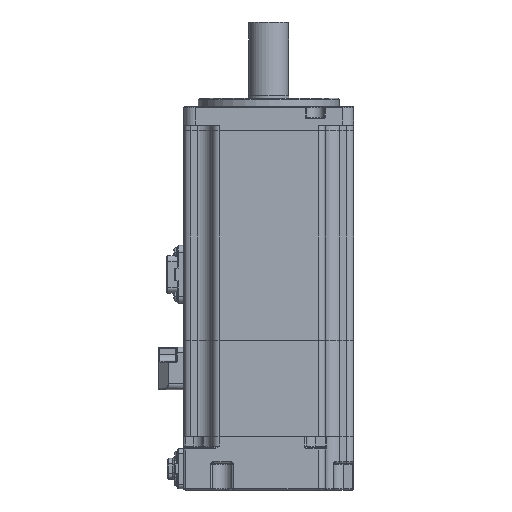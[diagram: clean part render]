
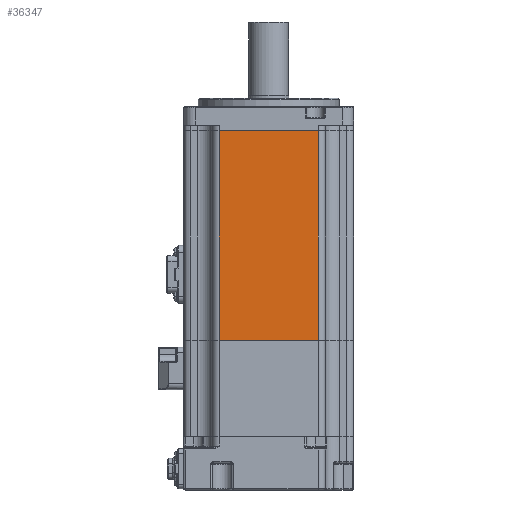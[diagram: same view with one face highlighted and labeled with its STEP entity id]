
A CAD part, left-side view. The second image highlights one B-rep face of the part: STEP entity #36347.
In plain terms, the highlighted planar face has unit normal (-1, 0, 0) as drawn and (1, 0, 0) by its records, which use the part's own axes.
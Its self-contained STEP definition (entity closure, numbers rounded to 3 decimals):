
#8560 = DIRECTION ( 'NONE',  ( 0., 1., 0. ) ) ;
#8993 = CARTESIAN_POINT ( 'NONE',  ( 30., -17.55, 0. ) ) ;
#20989 = VECTOR ( 'NONE', #160707, 1000. ) ;
#28705 = FACE_OUTER_BOUND ( 'NONE', #86096, .T. ) ;
#29583 = CARTESIAN_POINT ( 'NONE',  ( 30., 17.55, 74. ) ) ;
#30916 = AXIS2_PLACEMENT_3D ( 'NONE', #149130, #149780, #163175 ) ;
#36347 = ADVANCED_FACE ( 'NONE', ( #28705 ), #60885, .F. ) ;
#41626 = ORIENTED_EDGE ( 'NONE', *, *, #100889, .T. ) ;
#48968 = CARTESIAN_POINT ( 'NONE',  ( 30., -25.05, 0. ) ) ;
#55325 = EDGE_CURVE ( 'NONE', #180437, #68267, #150828, .T. ) ;
#60885 = PLANE ( 'NONE',  #30916 ) ;
#65143 = ORIENTED_EDGE ( 'NONE', *, *, #87542, .F. ) ;
#68267 = VERTEX_POINT ( 'NONE', #95157 ) ;
#69650 = DIRECTION ( 'NONE',  ( 0., 0., 1. ) ) ;
#73646 = VERTEX_POINT ( 'NONE', #141700 ) ;
#75190 = VECTOR ( 'NONE', #165401, 1000. ) ;
#75786 = EDGE_CURVE ( 'NONE', #141849, #73646, #103353, .T. ) ;
#86096 = EDGE_LOOP ( 'NONE', ( #65143, #89034, #41626, #108800 ) ) ;
#87542 = EDGE_CURVE ( 'NONE', #68267, #141849, #188297, .T. ) ;
#89034 = ORIENTED_EDGE ( 'NONE', *, *, #55325, .F. ) ;
#95157 = CARTESIAN_POINT ( 'NONE',  ( 30., -17.55, 74. ) ) ;
#100889 = EDGE_CURVE ( 'NONE', #180437, #73646, #153016, .T. ) ;
#103179 = CARTESIAN_POINT ( 'NONE',  ( 30., 17.55, 74. ) ) ;
#103353 = LINE ( 'NONE', #29583, #20989 ) ;
#108323 = VECTOR ( 'NONE', #8560, 1000. ) ;
#108800 = ORIENTED_EDGE ( 'NONE', *, *, #75786, .F. ) ;
#108996 = CARTESIAN_POINT ( 'NONE',  ( 30., -25.05, 74. ) ) ;
#123294 = VECTOR ( 'NONE', #69650, 1000. ) ;
#141700 = CARTESIAN_POINT ( 'NONE',  ( 30., 17.55, 0. ) ) ;
#141849 = VERTEX_POINT ( 'NONE', #103179 ) ;
#149130 = CARTESIAN_POINT ( 'NONE',  ( 30., 17.55, 74. ) ) ;
#149780 = DIRECTION ( 'NONE',  ( -1., 0., 0. ) ) ;
#150828 = LINE ( 'NONE', #185368, #123294 ) ;
#153016 = LINE ( 'NONE', #48968, #75190 ) ;
#160707 = DIRECTION ( 'NONE',  ( 0., 0., -1. ) ) ;
#163175 = DIRECTION ( 'NONE',  ( 0., 0., 1. ) ) ;
#165401 = DIRECTION ( 'NONE',  ( 0., 1., 0. ) ) ;
#180437 = VERTEX_POINT ( 'NONE', #8993 ) ;
#185368 = CARTESIAN_POINT ( 'NONE',  ( 30., -17.55, 74. ) ) ;
#188297 = LINE ( 'NONE', #108996, #108323 ) ;
